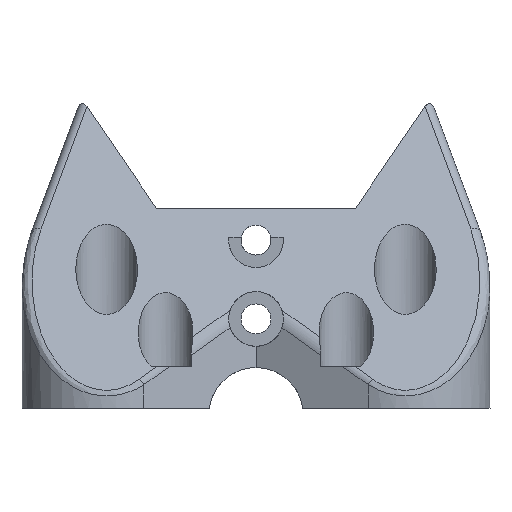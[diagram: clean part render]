
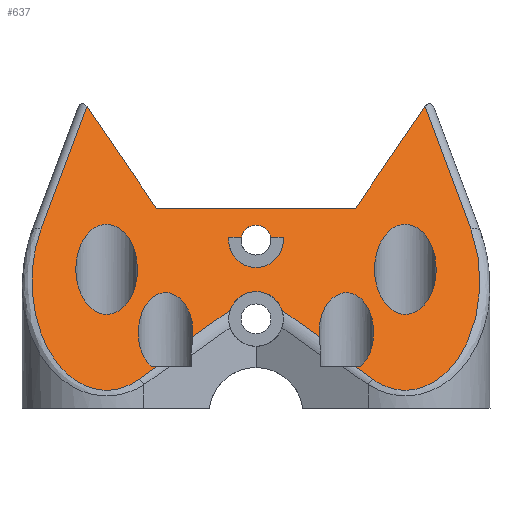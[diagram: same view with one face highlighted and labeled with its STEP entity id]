
A CAD part, front view. The second image highlights one B-rep face of the part: STEP entity #637.
In plain terms, the highlighted planar face has unit normal (0, -0.825, 0.566).
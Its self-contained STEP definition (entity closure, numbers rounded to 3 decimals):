
#17=FACE_BOUND('',#122,.T.);
#18=FACE_BOUND('',#123,.T.);
#19=FACE_BOUND('',#124,.T.);
#29=PLANE('',#688);
#65=ELLIPSE('',#686,4.863,2.75);
#66=ELLIPSE('',#689,3.334,2.75);
#67=ELLIPSE('',#690,4.863,2.75);
#68=ELLIPSE('',#691,13.262,7.5);
#69=ELLIPSE('',#692,13.262,7.5);
#70=ELLIPSE('',#693,5.482,3.1);
#71=ELLIPSE('',#694,5.482,3.1);
#72=ELLIPSE('',#695,1.819,1.5);
#73=ELLIPSE('',#696,3.334,2.75);
#86=FACE_OUTER_BOUND('',#121,.T.);
#121=EDGE_LOOP('',(#435,#436,#437,#438,#439,#440,#441,#442,#443,#444,#445,
#446,#447,#448,#449,#450));
#122=EDGE_LOOP('',(#451));
#123=EDGE_LOOP('',(#452));
#124=EDGE_LOOP('',(#453,#454,#455,#456));
#167=LINE('',#983,#216);
#169=LINE('',#994,#218);
#170=LINE('',#998,#219);
#171=LINE('',#1000,#220);
#172=LINE('',#1004,#221);
#173=LINE('',#1006,#222);
#174=LINE('',#1008,#223);
#175=LINE('',#1010,#224);
#176=LINE('',#1012,#225);
#177=LINE('',#1016,#226);
#178=LINE('',#1017,#227);
#179=LINE('',#1024,#228);
#180=LINE('',#1028,#229);
#216=VECTOR('',#763,10.);
#218=VECTOR('',#775,10.);
#219=VECTOR('',#778,10.);
#220=VECTOR('',#779,10.);
#221=VECTOR('',#782,10.);
#222=VECTOR('',#783,10.);
#223=VECTOR('',#784,10.);
#224=VECTOR('',#785,10.);
#225=VECTOR('',#786,10.);
#226=VECTOR('',#789,10.);
#227=VECTOR('',#790,10.);
#228=VECTOR('',#795,10.);
#229=VECTOR('',#798,10.);
#269=VERTEX_POINT('',#959);
#273=VERTEX_POINT('',#976);
#274=VERTEX_POINT('',#985);
#276=VERTEX_POINT('',#991);
#277=VERTEX_POINT('',#993);
#278=VERTEX_POINT('',#995);
#279=VERTEX_POINT('',#997);
#280=VERTEX_POINT('',#999);
#281=VERTEX_POINT('',#1001);
#282=VERTEX_POINT('',#1003);
#283=VERTEX_POINT('',#1005);
#284=VERTEX_POINT('',#1007);
#285=VERTEX_POINT('',#1009);
#286=VERTEX_POINT('',#1011);
#287=VERTEX_POINT('',#1013);
#288=VERTEX_POINT('',#1015);
#289=VERTEX_POINT('',#1018);
#290=VERTEX_POINT('',#1020);
#291=VERTEX_POINT('',#1022);
#292=VERTEX_POINT('',#1023);
#293=VERTEX_POINT('',#1025);
#294=VERTEX_POINT('',#1027);
#335=EDGE_CURVE('',#273,#269,#167,.T.);
#336=EDGE_CURVE('',#274,#269,#65,.T.);
#339=EDGE_CURVE('',#273,#276,#66,.T.);
#340=EDGE_CURVE('',#277,#276,#169,.T.);
#341=EDGE_CURVE('',#277,#278,#67,.T.);
#342=EDGE_CURVE('',#278,#279,#170,.T.);
#343=EDGE_CURVE('',#280,#279,#171,.T.);
#344=EDGE_CURVE('',#281,#280,#68,.T.);
#345=EDGE_CURVE('',#282,#281,#172,.T.);
#346=EDGE_CURVE('',#283,#282,#173,.T.);
#347=EDGE_CURVE('',#284,#283,#174,.T.);
#348=EDGE_CURVE('',#285,#284,#175,.T.);
#349=EDGE_CURVE('',#286,#285,#176,.T.);
#350=EDGE_CURVE('',#287,#286,#69,.T.);
#351=EDGE_CURVE('',#288,#287,#177,.T.);
#352=EDGE_CURVE('',#288,#274,#178,.T.);
#353=EDGE_CURVE('',#289,#289,#70,.T.);
#354=EDGE_CURVE('',#290,#290,#71,.T.);
#355=EDGE_CURVE('',#291,#292,#179,.T.);
#356=EDGE_CURVE('',#292,#293,#72,.T.);
#357=EDGE_CURVE('',#293,#294,#180,.T.);
#358=EDGE_CURVE('',#294,#291,#73,.T.);
#435=ORIENTED_EDGE('',*,*,#335,.F.);
#436=ORIENTED_EDGE('',*,*,#339,.T.);
#437=ORIENTED_EDGE('',*,*,#340,.F.);
#438=ORIENTED_EDGE('',*,*,#341,.T.);
#439=ORIENTED_EDGE('',*,*,#342,.T.);
#440=ORIENTED_EDGE('',*,*,#343,.F.);
#441=ORIENTED_EDGE('',*,*,#344,.F.);
#442=ORIENTED_EDGE('',*,*,#345,.F.);
#443=ORIENTED_EDGE('',*,*,#346,.F.);
#444=ORIENTED_EDGE('',*,*,#347,.F.);
#445=ORIENTED_EDGE('',*,*,#348,.F.);
#446=ORIENTED_EDGE('',*,*,#349,.F.);
#447=ORIENTED_EDGE('',*,*,#350,.F.);
#448=ORIENTED_EDGE('',*,*,#351,.F.);
#449=ORIENTED_EDGE('',*,*,#352,.T.);
#450=ORIENTED_EDGE('',*,*,#336,.T.);
#451=ORIENTED_EDGE('',*,*,#353,.F.);
#452=ORIENTED_EDGE('',*,*,#354,.F.);
#453=ORIENTED_EDGE('',*,*,#355,.T.);
#454=ORIENTED_EDGE('',*,*,#356,.T.);
#455=ORIENTED_EDGE('',*,*,#357,.T.);
#456=ORIENTED_EDGE('',*,*,#358,.T.);
#637=ADVANCED_FACE('',(#86,#17,#18,#19),#29,.F.);
#686=AXIS2_PLACEMENT_3D('',#986,#766,#767);
#688=AXIS2_PLACEMENT_3D('',#990,#771,#772);
#689=AXIS2_PLACEMENT_3D('',#992,#773,#774);
#690=AXIS2_PLACEMENT_3D('',#996,#776,#777);
#691=AXIS2_PLACEMENT_3D('',#1002,#780,#781);
#692=AXIS2_PLACEMENT_3D('',#1014,#787,#788);
#693=AXIS2_PLACEMENT_3D('',#1019,#791,#792);
#694=AXIS2_PLACEMENT_3D('',#1021,#793,#794);
#695=AXIS2_PLACEMENT_3D('',#1026,#796,#797);
#696=AXIS2_PLACEMENT_3D('',#1029,#799,#800);
#763=DIRECTION('',(-0.756,-0.37,-0.54));
#766=DIRECTION('center_axis',(0.,0.825,-0.566));
#767=DIRECTION('ref_axis',(0.,0.566,0.825));
#771=DIRECTION('center_axis',(0.,0.825,-0.566));
#772=DIRECTION('ref_axis',(0.,0.566,0.825));
#773=DIRECTION('center_axis',(0.,0.825,-0.566));
#774=DIRECTION('ref_axis',(0.,-0.566,-0.825));
#775=DIRECTION('',(-0.756,0.37,0.54));
#776=DIRECTION('center_axis',(0.,0.825,-0.566));
#777=DIRECTION('ref_axis',(0.,0.566,0.825));
#778=DIRECTION('',(-1.,0.,0.));
#779=DIRECTION('',(-0.756,0.37,0.54));
#780=DIRECTION('center_axis',(0.,0.825,-0.566));
#781=DIRECTION('ref_axis',(0.,-0.566,-0.825));
#782=DIRECTION('',(0.296,-0.54,-0.788));
#783=DIRECTION('',(0.492,0.492,0.718));
#784=DIRECTION('',(1.,0.,0.));
#785=DIRECTION('',(0.492,-0.492,-0.718));
#786=DIRECTION('',(0.296,0.54,0.788));
#787=DIRECTION('center_axis',(0.,0.825,-0.566));
#788=DIRECTION('ref_axis',(0.,-0.566,-0.825));
#789=DIRECTION('',(-0.756,-0.37,-0.54));
#790=DIRECTION('',(-1.,0.,0.));
#791=DIRECTION('center_axis',(0.,-0.825,0.566));
#792=DIRECTION('ref_axis',(0.,-0.566,-0.825));
#793=DIRECTION('center_axis',(0.,-0.825,0.566));
#794=DIRECTION('ref_axis',(0.,-0.566,-0.825));
#795=DIRECTION('',(1.,0.,0.));
#796=DIRECTION('center_axis',(0.,0.825,-0.566));
#797=DIRECTION('ref_axis',(0.,0.566,0.825));
#798=DIRECTION('',(1.,0.,0.));
#799=DIRECTION('center_axis',(0.,0.825,-0.566));
#800=DIRECTION('ref_axis',(0.,-0.566,-0.825));
#959=CARTESIAN_POINT('',(-52.04,-83.063,177.595));
#976=CARTESIAN_POINT('',(-48.306,-81.234,180.263));
#983=CARTESIAN_POINT('',(-63.546,-88.702,169.372));
#985=CARTESIAN_POINT('',(-56.22,-85.117,174.6));
#986=CARTESIAN_POINT('Origin',(-54.775,-82.777,178.012));
#990=CARTESIAN_POINT('Origin',(-73.7,-87.7,170.833));
#991=CARTESIAN_POINT('',(-43.094,-81.234,180.263));
#992=CARTESIAN_POINT('Origin',(-45.7,-81.835,179.386));
#993=CARTESIAN_POINT('',(-39.36,-83.063,177.595));
#994=CARTESIAN_POINT('',(-47.834,-78.911,183.651));
#995=CARTESIAN_POINT('',(-35.18,-85.117,174.6));
#996=CARTESIAN_POINT('Origin',(-36.625,-82.777,178.012));
#997=CARTESIAN_POINT('',(-35.759,-85.117,174.6));
#998=CARTESIAN_POINT('',(-55.163,-85.117,174.6));
#999=CARTESIAN_POINT('',(-34.,-85.979,173.343));
#1000=CARTESIAN_POINT('',(-48.087,-79.076,183.41));
#1001=CARTESIAN_POINT('',(-24.122,-75.642,188.418));
#1002=CARTESIAN_POINT('Origin',(-30.7,-79.244,183.165));
#1003=CARTESIAN_POINT('',(-28.729,-67.229,200.687));
#1004=CARTESIAN_POINT('',(-21.245,-80.896,180.756));
#1005=CARTESIAN_POINT('',(-35.7,-74.2,190.52));
#1006=CARTESIAN_POINT('',(-47.035,-85.535,173.99));
#1007=CARTESIAN_POINT('',(-55.7,-74.2,190.52));
#1008=CARTESIAN_POINT('',(-54.7,-74.2,190.52));
#1009=CARTESIAN_POINT('',(-62.671,-67.229,200.687));
#1010=CARTESIAN_POINT('',(-49.211,-80.689,181.058));
#1011=CARTESIAN_POINT('',(-67.278,-75.642,188.418));
#1012=CARTESIAN_POINT('',(-71.76,-83.827,176.481));
#1013=CARTESIAN_POINT('',(-57.4,-85.979,173.343));
#1014=CARTESIAN_POINT('Origin',(-60.7,-79.244,183.165));
#1015=CARTESIAN_POINT('',(-55.641,-85.117,174.6));
#1016=CARTESIAN_POINT('',(-63.293,-88.867,169.131));
#1017=CARTESIAN_POINT('',(-55.163,-85.117,174.6));
#1018=CARTESIAN_POINT('',(-57.6,-78.419,184.368));
#1019=CARTESIAN_POINT('Origin',(-60.7,-78.419,184.368));
#1020=CARTESIAN_POINT('',(-27.6,-78.419,184.368));
#1021=CARTESIAN_POINT('Origin',(-30.7,-78.419,184.368));
#1022=CARTESIAN_POINT('',(-48.433,-76.2,187.604));
#1023=CARTESIAN_POINT('',(-47.169,-76.2,187.604));
#1024=CARTESIAN_POINT('',(-59.7,-76.2,187.604));
#1025=CARTESIAN_POINT('',(-44.231,-76.2,187.604));
#1026=CARTESIAN_POINT('Origin',(-45.7,-76.407,187.301));
#1027=CARTESIAN_POINT('',(-42.967,-76.2,187.604));
#1028=CARTESIAN_POINT('',(-59.7,-76.2,187.604));
#1029=CARTESIAN_POINT('Origin',(-45.7,-76.407,187.301));
